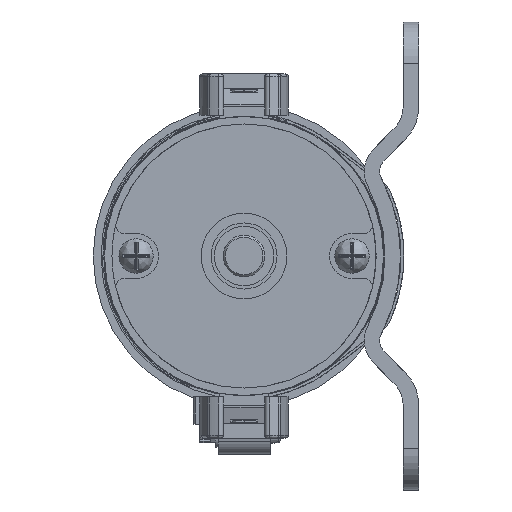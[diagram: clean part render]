
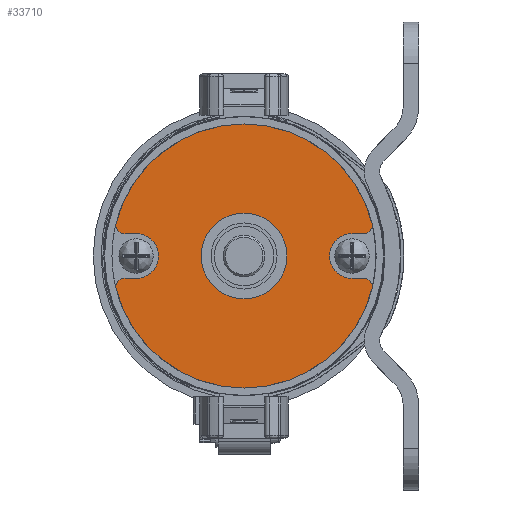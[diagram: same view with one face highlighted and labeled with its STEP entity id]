
A CAD part, left-side view. The second image highlights one B-rep face of the part: STEP entity #33710.
In plain terms, the highlighted planar face has unit normal (-1, 0, 0) as drawn and (0, 0, 1) by its records, which use the part's own axes.
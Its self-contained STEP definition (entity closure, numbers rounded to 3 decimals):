
#402 = DIRECTION ( 'NONE',  ( 1., 0., 0. ) ) ;
#465 = DIRECTION ( 'NONE',  ( 1., 0., 0. ) ) ;
#654 = DIRECTION ( 'NONE',  ( 0., 0., 1. ) ) ;
#775 = DIRECTION ( 'NONE',  ( 0., 0., 1. ) ) ;
#890 = DIRECTION ( 'NONE',  ( -1., 0., 0. ) ) ;
#2584 = ORIENTED_EDGE ( 'NONE', *, *, #28110, .T. ) ;
#3073 = CARTESIAN_POINT ( 'NONE',  ( -20.764, -4.318, 12.814 ) ) ;
#4260 = EDGE_CURVE ( 'NONE', #39824, #26389, #40388, .T. ) ;
#4783 = CARTESIAN_POINT ( 'NONE',  ( 23.085, -4.318, 12.814 ) ) ;
#6211 = AXIS2_PLACEMENT_3D ( 'NONE', #39566, #15685, #43559 ) ;
#6240 = CIRCLE ( 'NONE', #36529, 1.575 ) ;
#7013 = CARTESIAN_POINT ( 'NONE',  ( -23.085, -5.893, 12.814 ) ) ;
#8057 = FACE_BOUND ( 'NONE', #17313, .T. ) ;
#8186 = CARTESIAN_POINT ( 'NONE',  ( 24.611, -6.282, 12.814 ) ) ;
#8862 = CARTESIAN_POINT ( 'NONE',  ( 0., -4.318, 12.814 ) ) ;
#9073 = EDGE_CURVE ( 'NONE', #14983, #39824, #6240, .T. ) ;
#9276 = CIRCLE ( 'NONE', #39487, 25.4 ) ;
#9446 = DIRECTION ( 'NONE',  ( -1., 0., 0. ) ) ;
#10456 = VECTOR ( 'NONE', #36917, 1000. ) ;
#10532 = VERTEX_POINT ( 'NONE', #12507 ) ;
#10894 = CARTESIAN_POINT ( 'NONE',  ( -23.085, 4.318, 12.814 ) ) ;
#11010 = DIRECTION ( 'NONE',  ( 1., 0., 0. ) ) ;
#11467 = CARTESIAN_POINT ( 'NONE',  ( -23.085, -4.318, 12.814 ) ) ;
#12204 = CARTESIAN_POINT ( 'NONE',  ( -20.765, 0., 12.814 ) ) ;
#12221 = CARTESIAN_POINT ( 'NONE',  ( 24.611, 6.282, 12.814 ) ) ;
#12324 = LINE ( 'NONE', #33326, #32309 ) ;
#12507 = CARTESIAN_POINT ( 'NONE',  ( -24.611, -6.282, 12.814 ) ) ;
#12732 = ORIENTED_EDGE ( 'NONE', *, *, #51162, .T. ) ;
#13012 = CIRCLE ( 'NONE', #41085, 4.318 ) ;
#13234 = VERTEX_POINT ( 'NONE', #11467 ) ;
#13540 = CARTESIAN_POINT ( 'NONE',  ( 23.085, 4.318, 12.814 ) ) ;
#13841 = ORIENTED_EDGE ( 'NONE', *, *, #24552, .T. ) ;
#13931 = EDGE_CURVE ( 'NONE', #48394, #41412, #21995, .T. ) ;
#14983 = VERTEX_POINT ( 'NONE', #22308 ) ;
#15283 = VERTEX_POINT ( 'NONE', #8186 ) ;
#15685 = DIRECTION ( 'NONE',  ( 0., 0., -1. ) ) ;
#16207 = DIRECTION ( 'NONE',  ( 1., 0., 0. ) ) ;
#16574 = AXIS2_PLACEMENT_3D ( 'NONE', #7013, #34909, #11010 ) ;
#16983 = DIRECTION ( 'NONE',  ( 0., 0., 1. ) ) ;
#16984 = EDGE_CURVE ( 'NONE', #41412, #34532, #49684, .T. ) ;
#17313 = EDGE_LOOP ( 'NONE', ( #40076 ) ) ;
#19344 = CARTESIAN_POINT ( 'NONE',  ( 20.765, -4.318, 12.814 ) ) ;
#19513 = EDGE_LOOP ( 'NONE', ( #40877, #23800, #44206, #13841, #24900, #12732, #36193, #20377, #35617, #47083, #2584, #40294 ) ) ;
#20377 = ORIENTED_EDGE ( 'NONE', *, *, #51070, .T. ) ;
#20441 = VECTOR ( 'NONE', #28692, 1000. ) ;
#20594 = CIRCLE ( 'NONE', #6211, 4.318 ) ;
#21180 = EDGE_CURVE ( 'NONE', #41609, #13234, #31670, .T. ) ;
#21352 = CARTESIAN_POINT ( 'NONE',  ( 24.956, -25.705, 12.814 ) ) ;
#21717 = DIRECTION ( 'NONE',  ( 0., 0., 1. ) ) ;
#21757 = VERTEX_POINT ( 'NONE', #4783 ) ;
#21995 = LINE ( 'NONE', #49603, #32639 ) ;
#22207 = AXIS2_PLACEMENT_3D ( 'NONE', #48227, #24373, #465 ) ;
#22308 = CARTESIAN_POINT ( 'NONE',  ( -24.611, 6.282, 12.814 ) ) ;
#23800 = ORIENTED_EDGE ( 'NONE', *, *, #26854, .T. ) ;
#23827 = CIRCLE ( 'NONE', #27191, 8.255 ) ;
#24305 = DIRECTION ( 'NONE',  ( 0., 0., 1. ) ) ;
#24373 = DIRECTION ( 'NONE',  ( 0., 0., 1. ) ) ;
#24401 = CIRCLE ( 'NONE', #36675, 25.4 ) ;
#24549 = CARTESIAN_POINT ( 'NONE',  ( 0., 0., 12.814 ) ) ;
#24552 = EDGE_CURVE ( 'NONE', #13234, #10532, #43845, .T. ) ;
#24675 = CARTESIAN_POINT ( 'NONE',  ( -23.085, 5.893, 12.814 ) ) ;
#24777 = DIRECTION ( 'NONE',  ( 0., 0., -1. ) ) ;
#24900 = ORIENTED_EDGE ( 'NONE', *, *, #25333, .T. ) ;
#25333 = EDGE_CURVE ( 'NONE', #10532, #15283, #24401, .T. ) ;
#25387 = DIRECTION ( 'NONE',  ( 1., 0., 0. ) ) ;
#26389 = VERTEX_POINT ( 'NONE', #44653 ) ;
#26854 = EDGE_CURVE ( 'NONE', #26389, #41609, #13012, .T. ) ;
#27191 = AXIS2_PLACEMENT_3D ( 'NONE', #48642, #24777, #890 ) ;
#28110 = EDGE_CURVE ( 'NONE', #34532, #14983, #9276, .T. ) ;
#28593 = DIRECTION ( 'NONE',  ( 1., 0., 0. ) ) ;
#28692 = DIRECTION ( 'NONE',  ( 1., 0., 0. ) ) ;
#28714 = DIRECTION ( 'NONE',  ( 1., 0., 0. ) ) ;
#28790 = AXIS2_PLACEMENT_3D ( 'NONE', #48156, #24305, #402 ) ;
#29250 = FACE_OUTER_BOUND ( 'NONE', #19513, .T. ) ;
#31273 = CARTESIAN_POINT ( 'NONE',  ( -8.255, 0., 12.814 ) ) ;
#31670 = LINE ( 'NONE', #8862, #10456 ) ;
#32309 = VECTOR ( 'NONE', #9446, 1000. ) ;
#32639 = VECTOR ( 'NONE', #25387, 1000. ) ;
#33320 = VERTEX_POINT ( 'NONE', #19344 ) ;
#33326 = CARTESIAN_POINT ( 'NONE',  ( 0., -4.318, 12.814 ) ) ;
#33710 = ADVANCED_FACE ( 'NONE', ( #8057, #29250 ), #45560, .T. ) ;
#34532 = VERTEX_POINT ( 'NONE', #12221 ) ;
#34909 = DIRECTION ( 'NONE',  ( 0., 0., 1. ) ) ;
#35617 = ORIENTED_EDGE ( 'NONE', *, *, #13931, .T. ) ;
#35887 = VERTEX_POINT ( 'NONE', #31273 ) ;
#36193 = ORIENTED_EDGE ( 'NONE', *, *, #45403, .T. ) ;
#36529 = AXIS2_PLACEMENT_3D ( 'NONE', #24675, #775, #28714 ) ;
#36675 = AXIS2_PLACEMENT_3D ( 'NONE', #24549, #654, #28593 ) ;
#36917 = DIRECTION ( 'NONE',  ( -1., 0., 0. ) ) ;
#39487 = AXIS2_PLACEMENT_3D ( 'NONE', #40881, #16983, #44862 ) ;
#39566 = CARTESIAN_POINT ( 'NONE',  ( 20.765, 0., 12.814 ) ) ;
#39824 = VERTEX_POINT ( 'NONE', #10894 ) ;
#40076 = ORIENTED_EDGE ( 'NONE', *, *, #50365, .T. ) ;
#40097 = DIRECTION ( 'NONE',  ( 0., 0., -1. ) ) ;
#40294 = ORIENTED_EDGE ( 'NONE', *, *, #9073, .T. ) ;
#40388 = LINE ( 'NONE', #48516, #20441 ) ;
#40877 = ORIENTED_EDGE ( 'NONE', *, *, #4260, .T. ) ;
#40881 = CARTESIAN_POINT ( 'NONE',  ( 0., 0., 12.814 ) ) ;
#41085 = AXIS2_PLACEMENT_3D ( 'NONE', #12204, #40097, #16207 ) ;
#41149 = CIRCLE ( 'NONE', #22207, 1.575 ) ;
#41412 = VERTEX_POINT ( 'NONE', #13540 ) ;
#41609 = VERTEX_POINT ( 'NONE', #3073 ) ;
#43559 = DIRECTION ( 'NONE',  ( 1., 0., 0. ) ) ;
#43845 = CIRCLE ( 'NONE', #16574, 1.575 ) ;
#44206 = ORIENTED_EDGE ( 'NONE', *, *, #21180, .T. ) ;
#44653 = CARTESIAN_POINT ( 'NONE',  ( -20.764, 4.318, 12.814 ) ) ;
#44862 = DIRECTION ( 'NONE',  ( 1., 0., 0. ) ) ;
#45403 = EDGE_CURVE ( 'NONE', #21757, #33320, #12324, .T. ) ;
#45560 = PLANE ( 'NONE',  #46288 ) ;
#46288 = AXIS2_PLACEMENT_3D ( 'NONE', #21352, #21717, #49602 ) ;
#47083 = ORIENTED_EDGE ( 'NONE', *, *, #16984, .T. ) ;
#48156 = CARTESIAN_POINT ( 'NONE',  ( 23.085, 5.893, 12.814 ) ) ;
#48227 = CARTESIAN_POINT ( 'NONE',  ( 23.085, -5.893, 12.814 ) ) ;
#48394 = VERTEX_POINT ( 'NONE', #51139 ) ;
#48516 = CARTESIAN_POINT ( 'NONE',  ( 0., 4.318, 12.814 ) ) ;
#48642 = CARTESIAN_POINT ( 'NONE',  ( 0., 0., 12.814 ) ) ;
#49602 = DIRECTION ( 'NONE',  ( 0., 1., 0. ) ) ;
#49603 = CARTESIAN_POINT ( 'NONE',  ( 0., 4.318, 12.814 ) ) ;
#49684 = CIRCLE ( 'NONE', #28790, 1.575 ) ;
#50365 = EDGE_CURVE ( 'NONE', #35887, #35887, #23827, .T. ) ;
#51070 = EDGE_CURVE ( 'NONE', #33320, #48394, #20594, .T. ) ;
#51139 = CARTESIAN_POINT ( 'NONE',  ( 20.765, 4.318, 12.814 ) ) ;
#51162 = EDGE_CURVE ( 'NONE', #15283, #21757, #41149, .T. ) ;
